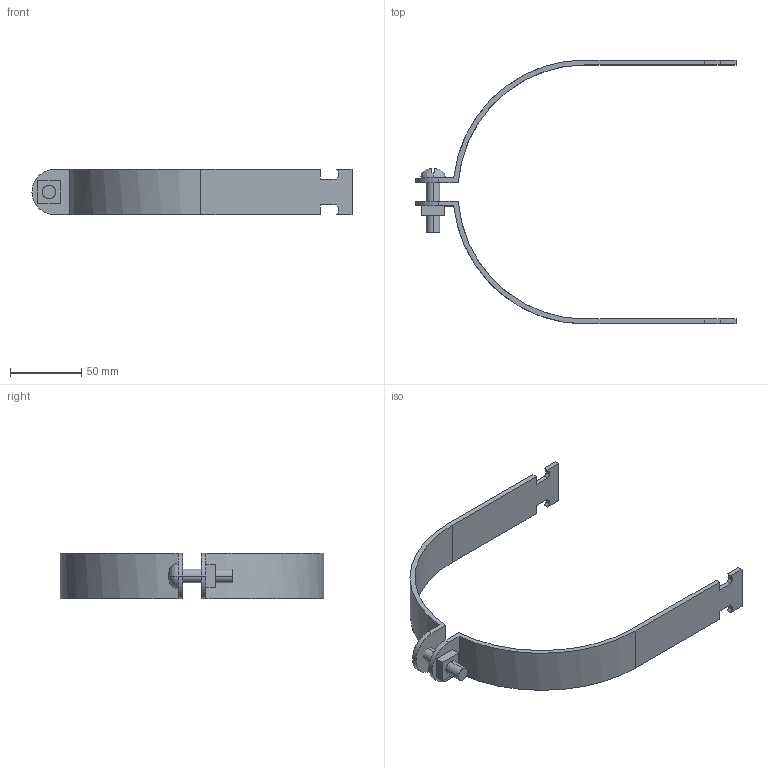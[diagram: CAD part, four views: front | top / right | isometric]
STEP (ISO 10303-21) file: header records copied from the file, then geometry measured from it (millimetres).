
FILE_DESCRIPTION(('TurboCAD Mac Pro'),'Build 980');
FILE_NAME('P2070-70.stp',' ',(''),(''),'ACIS Interop','IMSI','TurboCAD Mac Pro BY IMSI, INCORPORATED');
FILE_SCHEMA(('automotive_design'));
Length unit declared in the file: inch
Products named in the file (5): 1; 2; 3; 4; 5
Bounding box: 223.84 x 184.55 x 31.75 mm (x, y, z)
Volume: 61303.2 mm3; surface area: 39938.3 mm2
Topology: 4 solids, 4 shells, 71 faces, 186 edges, 124 vertices
Faces by surface type: plane 51, bspline 20
Entity records: 3487 total; most frequent: CARTESIAN_POINT 1050, ORIENTED_EDGE 372, DIRECTION 258, EDGE_CURVE 186, LINE 138, VECTOR 138, VERTEX_POINT 124, STYLED_ITEM 91
